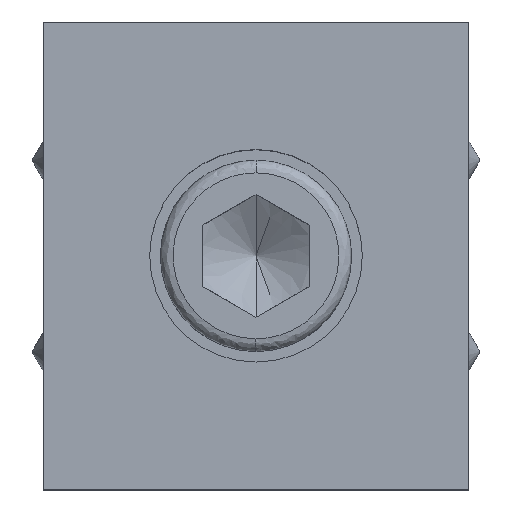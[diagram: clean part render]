
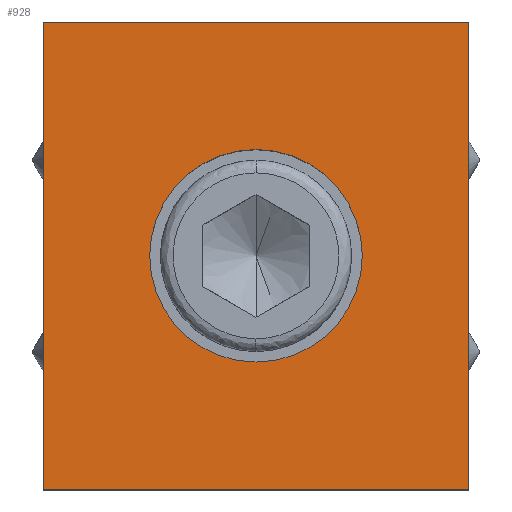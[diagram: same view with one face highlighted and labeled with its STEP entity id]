
A CAD part, top view. The second image highlights one B-rep face of the part: STEP entity #928.
In plain terms, the highlighted planar face has unit normal (0, 0, 1).
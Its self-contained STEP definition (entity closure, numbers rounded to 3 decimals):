
#4 = CARTESIAN_POINT ( 'NONE',  ( -20., -22., 21.4 ) ) ;
#29 = EDGE_LOOP ( 'NONE', ( #1164, #1141 ) ) ;
#37 = EDGE_CURVE ( 'NONE', #1418, #332, #886, .T. ) ;
#51 = EDGE_CURVE ( 'NONE', #1260, #1418, #1186, .T. ) ;
#111 = DIRECTION ( 'NONE',  ( 0., 0., -1. ) ) ;
#124 = DIRECTION ( 'NONE',  ( 1., 0., 0. ) ) ;
#135 = FACE_BOUND ( 'NONE', #29, .T. ) ;
#154 = CARTESIAN_POINT ( 'NONE',  ( -20., 22., 21.4 ) ) ;
#332 = VERTEX_POINT ( 'NONE', #1156 ) ;
#405 = FACE_OUTER_BOUND ( 'NONE', #1573, .T. ) ;
#501 = AXIS2_PLACEMENT_3D ( 'NONE', #154, #1892, #1584 ) ;
#519 = DIRECTION ( 'NONE',  ( 0., -1., 0. ) ) ;
#526 = VECTOR ( 'NONE', #124, 1000. ) ;
#537 = AXIS2_PLACEMENT_3D ( 'NONE', #1484, #842, #519 ) ;
#619 = VECTOR ( 'NONE', #1505, 1000. ) ;
#630 = VERTEX_POINT ( 'NONE', #955 ) ;
#649 = ORIENTED_EDGE ( 'NONE', *, *, #51, .T. ) ;
#721 = CARTESIAN_POINT ( 'NONE',  ( -20., -22., 21.4 ) ) ;
#741 = CIRCLE ( 'NONE', #1939, 10. ) ;
#788 = EDGE_CURVE ( 'NONE', #2028, #630, #1447, .T. ) ;
#842 = DIRECTION ( 'NONE',  ( 0., 0., -1. ) ) ;
#846 = VECTOR ( 'NONE', #1626, 1000. ) ;
#847 = CARTESIAN_POINT ( 'NONE',  ( 20., 22., 21.4 ) ) ;
#854 = VECTOR ( 'NONE', #1859, 1000. ) ;
#886 = LINE ( 'NONE', #721, #526 ) ;
#926 = CARTESIAN_POINT ( 'NONE',  ( 20., 22., 21.4 ) ) ;
#928 = ADVANCED_FACE ( 'NONE', ( #135, #405 ), #1757, .T. ) ;
#955 = CARTESIAN_POINT ( 'NONE',  ( 0., 10., 21.4 ) ) ;
#1141 = ORIENTED_EDGE ( 'NONE', *, *, #1198, .T. ) ;
#1148 = EDGE_CURVE ( 'NONE', #332, #1388, #1309, .T. ) ;
#1156 = CARTESIAN_POINT ( 'NONE',  ( 20., -22., 21.4 ) ) ;
#1164 = ORIENTED_EDGE ( 'NONE', *, *, #788, .T. ) ;
#1186 = LINE ( 'NONE', #1355, #854 ) ;
#1198 = EDGE_CURVE ( 'NONE', #630, #2028, #741, .T. ) ;
#1260 = VERTEX_POINT ( 'NONE', #1847 ) ;
#1309 = LINE ( 'NONE', #847, #846 ) ;
#1350 = CARTESIAN_POINT ( 'NONE',  ( -20., 22., 21.4 ) ) ;
#1355 = CARTESIAN_POINT ( 'NONE',  ( -20., 22., 21.4 ) ) ;
#1388 = VERTEX_POINT ( 'NONE', #926 ) ;
#1418 = VERTEX_POINT ( 'NONE', #4 ) ;
#1447 = CIRCLE ( 'NONE', #537, 10. ) ;
#1470 = ORIENTED_EDGE ( 'NONE', *, *, #1148, .T. ) ;
#1484 = CARTESIAN_POINT ( 'NONE',  ( 0., 0., 21.4 ) ) ;
#1505 = DIRECTION ( 'NONE',  ( -1., 0., 0. ) ) ;
#1531 = LINE ( 'NONE', #1350, #619 ) ;
#1553 = DIRECTION ( 'NONE',  ( 0., -1., 0. ) ) ;
#1573 = EDGE_LOOP ( 'NONE', ( #1470, #1602, #649, #1601 ) ) ;
#1584 = DIRECTION ( 'NONE',  ( 0., -1., 0. ) ) ;
#1601 = ORIENTED_EDGE ( 'NONE', *, *, #37, .T. ) ;
#1602 = ORIENTED_EDGE ( 'NONE', *, *, #1658, .T. ) ;
#1626 = DIRECTION ( 'NONE',  ( 0., 1., 0. ) ) ;
#1658 = EDGE_CURVE ( 'NONE', #1388, #1260, #1531, .T. ) ;
#1757 = PLANE ( 'NONE',  #501 ) ;
#1847 = CARTESIAN_POINT ( 'NONE',  ( -20., 22., 21.4 ) ) ;
#1859 = DIRECTION ( 'NONE',  ( 0., -1., 0. ) ) ;
#1892 = DIRECTION ( 'NONE',  ( 0., 0., 1. ) ) ;
#1916 = CARTESIAN_POINT ( 'NONE',  ( 0., -10., 21.4 ) ) ;
#1939 = AXIS2_PLACEMENT_3D ( 'NONE', #2020, #111, #1553 ) ;
#2020 = CARTESIAN_POINT ( 'NONE',  ( 0., 0., 21.4 ) ) ;
#2028 = VERTEX_POINT ( 'NONE', #1916 ) ;
